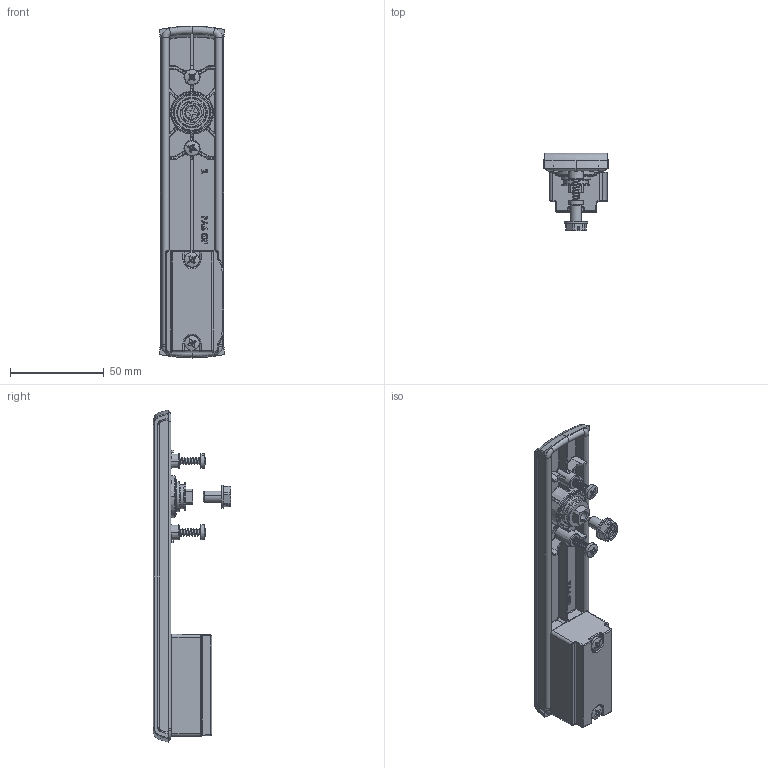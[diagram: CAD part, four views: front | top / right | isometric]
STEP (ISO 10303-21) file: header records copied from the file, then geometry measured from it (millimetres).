
FILE_DESCRIPTION (( 'STEP AP214' ), '1' );
FILE_NAME ('1B.RW430.M.STEP', '2022-02-04T07:43:28', ( '' ), ( '' ), 'SwSTEP 2.0', 'SolidWorks 2021', '' );
FILE_SCHEMA (( 'AUTOMOTIVE_DESIGN' ));
Length unit declared in the file: millimetre
Products named in the file (9): 1B.RW430.M; DIN 7981_F.4.1x22; P.014951_01-00; S6PZ_M6x10; 1B.RS300.02.02.00_A; DIN 7981_F.4.1x25; 2.PT.001_A; DIN 3771_16x2; P.014252_01-01
Assembly tree (10 placements, depth 2):
  1B.RW430.M
    P.014252_01-01
    2.PT.001_A
    S6PZ_M6x10
    DIN 7981_F.4.1x22  x2
    P.014951_01-00
    DIN 3771_16x2
    1B.RS300.02.02.00_A
    DIN 7981_F.4.1x25  x2
Bounding box: 34.28 x 41.43 x 177 mm (x, y, z)
Volume: 44265 mm3; surface area: 43141.3 mm2
Topology: 11 solids, 11 shells, 1948 faces, 4636 edges, 2748 vertices
Faces by surface type: plane 528, cylinder 485, bspline 342, torus 224, cone 185, sphere 184
Entity records: 62748 total; most frequent: CARTESIAN_POINT 23120, ORIENTED_EDGE 8574, DIRECTION 7887, EDGE_CURVE 4287, AXIS2_PLACEMENT_3D 3170, VERTEX_POINT 2517, EDGE_LOOP 1872, FACE_OUTER_BOUND 1824
